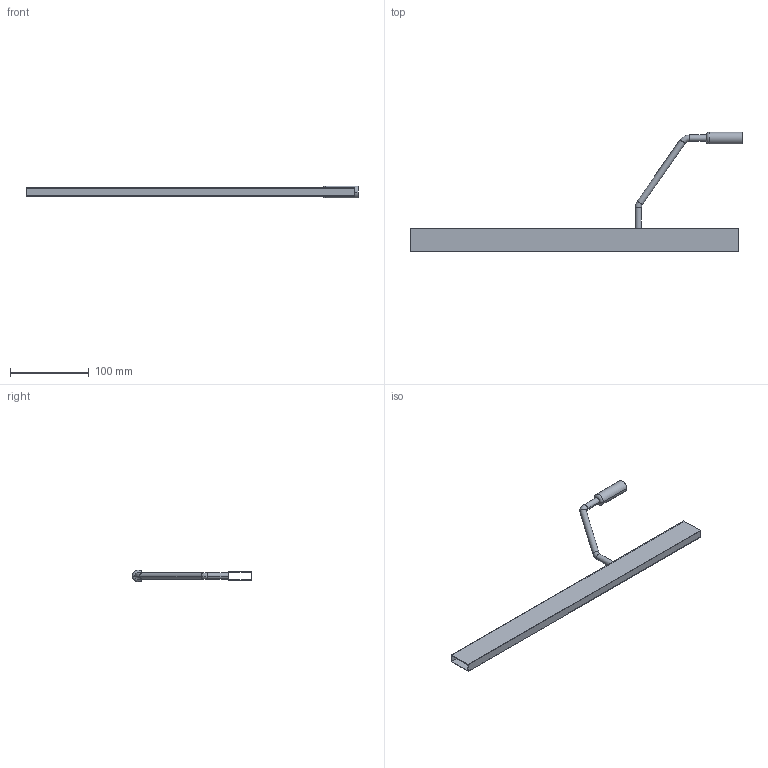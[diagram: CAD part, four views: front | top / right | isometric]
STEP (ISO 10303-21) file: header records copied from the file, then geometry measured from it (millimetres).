
FILE_DESCRIPTION (( 'STEP AP214' ), '1' );
FILE_NAME ('_DWD XP Rechteckreling mit Frontabstützung NL450.step', '2010-07-14T13:27:15', ( 'grass' ), ( '' ), 'SwSTEP 2.0', 'SolidWorks 2010', '' );
FILE_SCHEMA (( 'AUTOMOTIVE_DESIGN' ));
Length unit declared in the file: millimetre
Products named in the file (1): _DWD XP Rechteckreling mit Frontabstützung NL450
Bounding box: 421.6 x 151.9 x 15 mm (x, y, z)
Volume: 35560.7 mm3; surface area: 71970.6 mm2
Topology: 1 solids, 1 shells, 25 faces, 54 edges, 32 vertices
Faces by surface type: plane 11, cylinder 8, torus 6
Entity records: 712 total; most frequent: DIRECTION 128, CARTESIAN_POINT 112, ORIENTED_EDGE 108, EDGE_CURVE 54, AXIS2_PLACEMENT_3D 48, VERTEX_POINT 32, VECTOR 32, LINE 32
